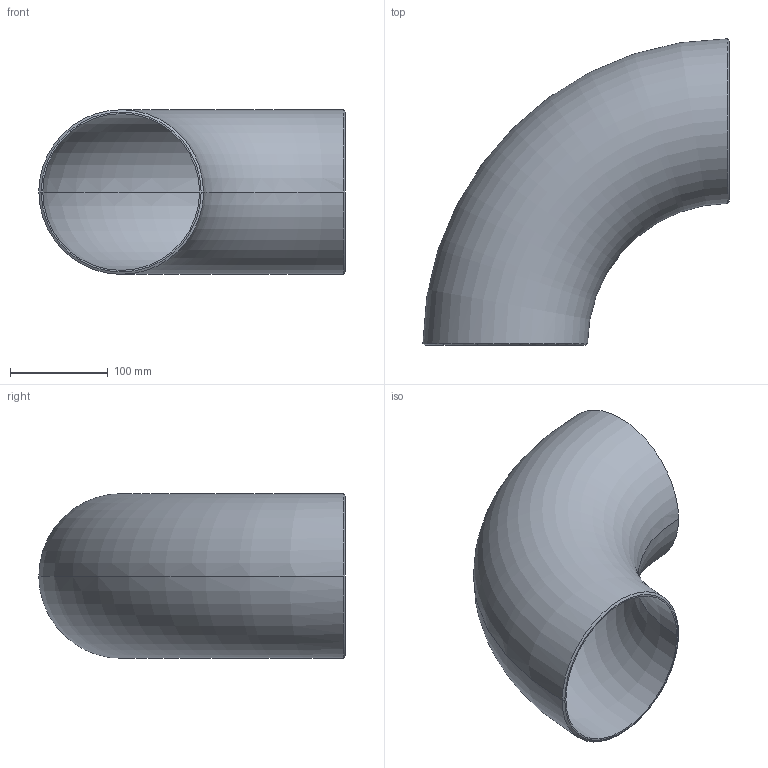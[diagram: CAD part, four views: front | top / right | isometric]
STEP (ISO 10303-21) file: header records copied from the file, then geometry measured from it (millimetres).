
FILE_DESCRIPTION (( 'STEP AP203' ), '1' );
FILE_NAME ('OT200-150-168_3x4_OSTP.step', '2020-12-16T02:56:53', ( '' ), ( '' ), 'SwSTEP 2.0', 'SolidWorks 2014', '' );
FILE_SCHEMA (( 'CONFIG_CONTROL_DESIGN' ));
Length unit declared in the file: millimetre
Products named in the file (1): OT200-150-168_3x4_OSTP
Bounding box: 313.15 x 313.15 x 168.29 mm (x, y, z)
Volume: 741147.6 mm3; surface area: 374393.9 mm2
Topology: 1 solids, 1 shells, 10 faces, 20 edges, 12 vertices
Faces by surface type: torus 4, cone 4, plane 2
Entity records: 631 total; most frequent: CARTESIAN_POINT 337, DIRECTION 50, ORIENTED_EDGE 40, AXIS2_PLACEMENT_3D 23, EDGE_CURVE 20, CIRCLE 12, EDGE_LOOP 12, VERTEX_POINT 12
